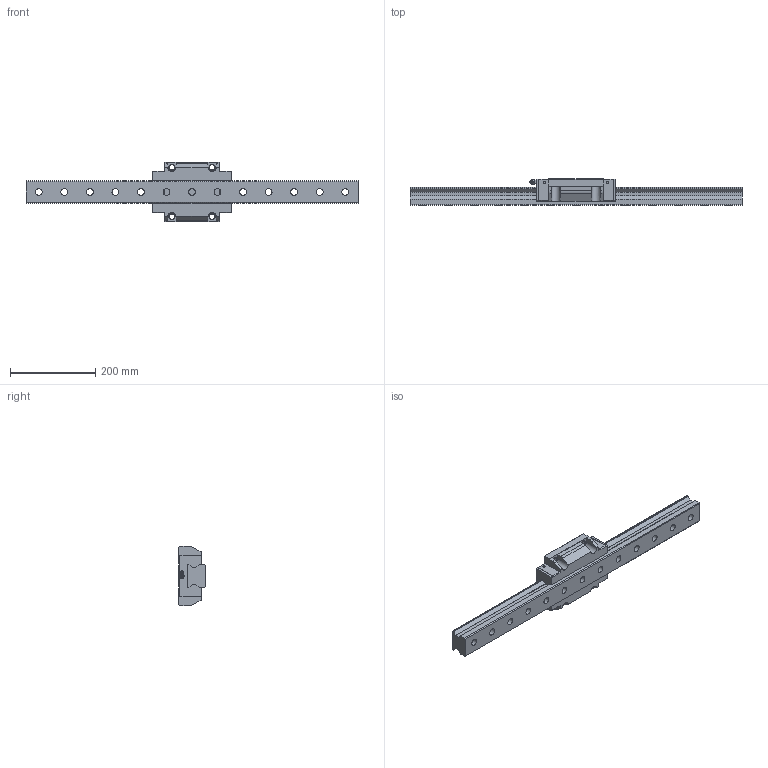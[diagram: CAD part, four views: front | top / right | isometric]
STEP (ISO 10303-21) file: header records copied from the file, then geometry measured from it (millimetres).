
FILE_DESCRIPTION(/* description */ ('STEP AP203'),/* implementation_level */ '2;1');
FILE_NAME(/* name */ 'SRN55C1SS-780L_G30_0_B-PT18_297-5_0_0_0_1',/* time_stamp */ '2024-05-23T10:42:33+02:00',/* author */ ('License CC BY-ND 4.0'),/* organization */ ('CADENAS'),/* preprocessor_version */ 'ST-DEVELOPER v19.3',/* originating_system */ 'PARTsolutions',/* authorisation */ ' ');
FILE_SCHEMA (('CONFIG_CONTROL_DESIGN'));
Length unit declared in the file: millimetre
Products named in the file (4): SRN55C1SS-780L_G30_0_B-PT18_297-5_0_0_0_1; SRN55C78030 Track; SRN55CSSB-PT1/81 Slide25-55; B-PT1/8-SRN_grease_nipple_joint
Assembly tree (3 placements, depth 2):
  SRN55C1SS-780L_G30_0_B-PT18_297-5_0_0_0_1
    SRN55C78030 Track
    SRN55CSSB-PT1/81 Slide25-55
    B-PT1/8-SRN_grease_nipple_joint
Bounding box: 780 x 63 x 140 mm (x, y, z)
Volume: 2261145 mm3; surface area: 288489.8 mm2
Topology: 3 solids, 3 shells, 246 faces, 648 edges, 427 vertices
Faces by surface type: plane 158, cylinder 59, cone 24, torus 3, sphere 2
Full cylindrical faces by diameter (mm): 5.2 x4, 9.6 x1, 12.5 x6, 16 x13, 23 x13
Entity records: 7350 total; most frequent: CARTESIAN_POINT 1355, DIRECTION 1200, ORIENTED_EDGE 1130, EDGE_CURVE 565, VERTEX_POINT 412, AXIS2_PLACEMENT_3D 412, LINE 376, VECTOR 376
